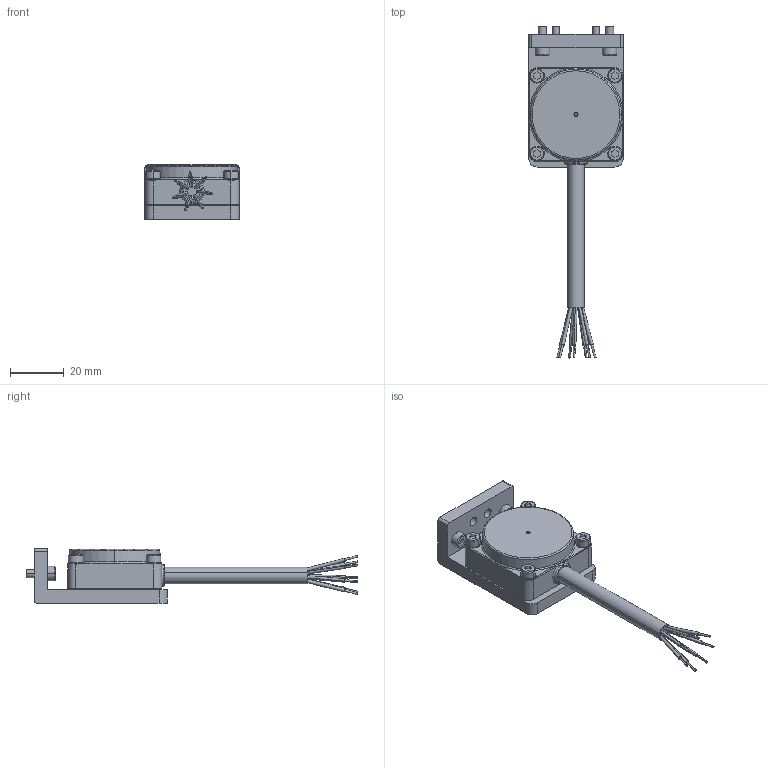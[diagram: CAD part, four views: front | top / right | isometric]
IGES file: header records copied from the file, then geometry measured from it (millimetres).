
Start section: 3D InterOp IGES (v. 2022 1.0.0), Spatial Corp. Copyright (c) 1999-2020.
Global section: file name: KHB-7HS-NN4,NP4_ver1.igs; native system: Spatial Corp.; preprocessor: 3D InterOp GENERIC/IGES 3.0; author: Noname; organization: Noname; date: 20260427.103605; units: millimetre
Bounding box: 35 x 123.57 x 20.2 mm (x, y, z)
Surface area: 12845.7 mm2 (no closed solid volume)
Topology: 0 solids, 0 shells, 343 faces, 1610 edges, 1606 vertices
Faces by surface type: revolution 210, extrusion 120, bspline 13
